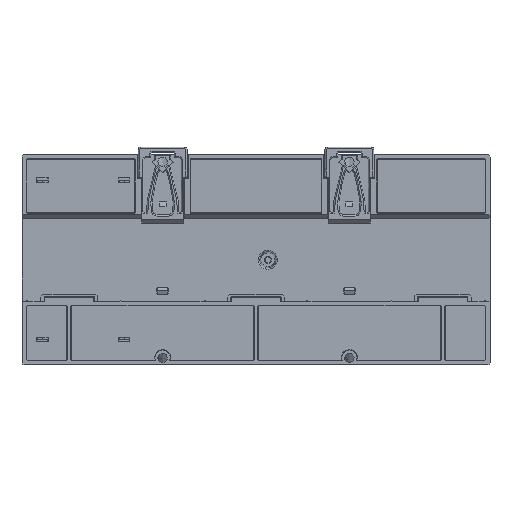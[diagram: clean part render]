
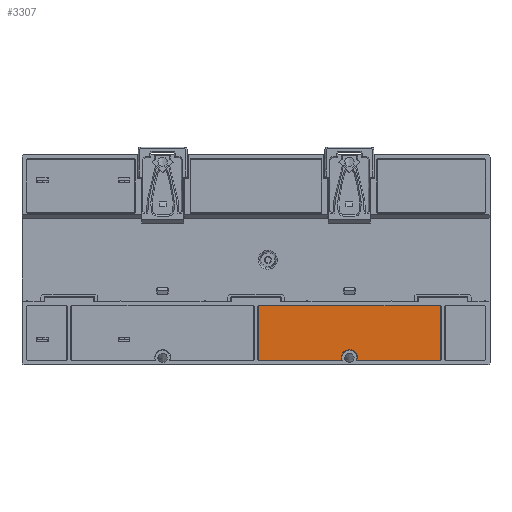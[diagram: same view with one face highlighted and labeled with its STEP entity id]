
A CAD part, front view. The second image highlights one B-rep face of the part: STEP entity #3307.
In plain terms, the highlighted planar face has unit normal (0, -1, 0).
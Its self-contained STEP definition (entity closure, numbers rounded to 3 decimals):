
#3307=ADVANCED_FACE('',(#7515),#76034,.T.);
#7515=FACE_OUTER_BOUND('',#12336,.T.);
#12336=EDGE_LOOP('',(#30016,#30017,#30018,#30019,#30020,#30021,#30022,#30023,
#30024,#30025));
#30016=ORIENTED_EDGE('',*,*,#47261,.T.);
#30017=ORIENTED_EDGE('',*,*,#47269,.T.);
#30018=ORIENTED_EDGE('',*,*,#47268,.T.);
#30019=ORIENTED_EDGE('',*,*,#47267,.T.);
#30020=ORIENTED_EDGE('',*,*,#47266,.T.);
#30021=ORIENTED_EDGE('',*,*,#47265,.T.);
#30022=ORIENTED_EDGE('',*,*,#47512,.T.);
#30023=ORIENTED_EDGE('',*,*,#47264,.T.);
#30024=ORIENTED_EDGE('',*,*,#47263,.T.);
#30025=ORIENTED_EDGE('',*,*,#47262,.T.);
#47261=EDGE_CURVE('',#69839,#69840,#60865,.T.);
#47262=EDGE_CURVE('',#69841,#69839,#60866,.T.);
#47263=EDGE_CURVE('',#69842,#69841,#60867,.T.);
#47264=EDGE_CURVE('',#69843,#69842,#60868,.T.);
#47265=EDGE_CURVE('',#69845,#69844,#60869,.T.);
#47266=EDGE_CURVE('',#69846,#69845,#60870,.T.);
#47267=EDGE_CURVE('',#69847,#69846,#60871,.T.);
#47268=EDGE_CURVE('',#69848,#69847,#60872,.T.);
#47269=EDGE_CURVE('',#69840,#69848,#60873,.T.);
#47512=EDGE_CURVE('',#69844,#69843,#52511,.T.);
#52511=(
BOUNDED_CURVE()
B_SPLINE_CURVE(2,(#162219,#162220,#162221,#162222,#162223,#162224,#162225,
#162226,#162227),.UNSPECIFIED.,.F.,.F.)
B_SPLINE_CURVE_WITH_KNOTS((3,2,2,2,3),(0.,3.256,6.512,
9.768,13.024),.UNSPECIFIED.)
CURVE()
GEOMETRIC_REPRESENTATION_ITEM()
RATIONAL_B_SPLINE_CURVE((1.,0.894,1.,0.894,1.,0.894,
1.,0.894,1.))
REPRESENTATION_ITEM('')
);
#60865=B_SPLINE_CURVE_WITH_KNOTS('',3,(#161496,#161497,#161498,#161499,
#161500),.UNSPECIFIED.,.F.,.F.,(4,1,4),(-0.327,-0.164,
0.),.UNSPECIFIED.);
#60866=B_SPLINE_CURVE_WITH_KNOTS('',1,(#161501,#161502),.UNSPECIFIED.,.F.,
 .F.,(2,2),(-22.85,0.),.UNSPECIFIED.);
#60867=B_SPLINE_CURVE_WITH_KNOTS('',3,(#161503,#161504,#161505,#161506,
#161507),.UNSPECIFIED.,.F.,.F.,(4,1,4),(-0.327,-0.164,
0.),.UNSPECIFIED.);
#60868=B_SPLINE_CURVE_WITH_KNOTS('',1,(#161508,#161509),.UNSPECIFIED.,.F.,
 .F.,(2,2),(-35.446,0.),.UNSPECIFIED.);
#60869=B_SPLINE_CURVE_WITH_KNOTS('',1,(#161510,#161511),.UNSPECIFIED.,.F.,
 .F.,(2,2),(-35.446,0.),.UNSPECIFIED.);
#60870=B_SPLINE_CURVE_WITH_KNOTS('',3,(#161512,#161513,#161514,#161515,
#161516),.UNSPECIFIED.,.F.,.F.,(4,1,4),(-0.327,-0.164,
0.),.UNSPECIFIED.);
#60871=B_SPLINE_CURVE_WITH_KNOTS('',1,(#161517,#161518),.UNSPECIFIED.,.F.,
 .F.,(2,2),(-22.85,0.),.UNSPECIFIED.);
#60872=B_SPLINE_CURVE_WITH_KNOTS('',3,(#161519,#161520,#161521,#161522,
#161523),.UNSPECIFIED.,.F.,.F.,(4,1,4),(-0.327,-0.164,
0.),.UNSPECIFIED.);
#60873=B_SPLINE_CURVE_WITH_KNOTS('',1,(#161524,#161525),.UNSPECIFIED.,.F.,
 .F.,(2,2),(-77.6,0.),.UNSPECIFIED.);
#69839=VERTEX_POINT('',#158295);
#69840=VERTEX_POINT('',#158296);
#69841=VERTEX_POINT('',#158297);
#69842=VERTEX_POINT('',#158298);
#69843=VERTEX_POINT('',#158299);
#69844=VERTEX_POINT('',#158300);
#69845=VERTEX_POINT('',#158301);
#69846=VERTEX_POINT('',#158302);
#69847=VERTEX_POINT('',#158303);
#69848=VERTEX_POINT('',#158304);
#76034=PLANE('',#79002);
#79002=AXIS2_PLACEMENT_3D('',#116442,#81849,$);
#81849=DIRECTION('',(0.,-1.,0.));
#116442=CARTESIAN_POINT('',(87.072,3.,-17.153));
#158295=CARTESIAN_POINT('',(79.,3.,-19.95));
#158296=CARTESIAN_POINT('',(78.8,3.,-19.75));
#158297=CARTESIAN_POINT('',(79.,3.,-42.8));
#158298=CARTESIAN_POINT('',(78.8,3.,-43.));
#158299=CARTESIAN_POINT('',(43.354,3.,-43.));
#158300=CARTESIAN_POINT('',(36.646,3.,-43.));
#158301=CARTESIAN_POINT('',(1.2,3.,-43.));
#158302=CARTESIAN_POINT('',(1.,3.,-42.8));
#158303=CARTESIAN_POINT('',(1.,3.,-19.95));
#158304=CARTESIAN_POINT('',(1.2,3.,-19.75));
#161496=CARTESIAN_POINT('',(79.,3.,-19.95));
#161497=CARTESIAN_POINT('',(79.,3.,-19.883));
#161498=CARTESIAN_POINT('',(78.95,3.,-19.8));
#161499=CARTESIAN_POINT('',(78.867,3.,-19.75));
#161500=CARTESIAN_POINT('',(78.8,3.,-19.75));
#161501=CARTESIAN_POINT('',(79.,3.,-42.8));
#161502=CARTESIAN_POINT('',(79.,3.,-19.95));
#161503=CARTESIAN_POINT('',(78.8,3.,-43.));
#161504=CARTESIAN_POINT('',(78.867,3.,-43.));
#161505=CARTESIAN_POINT('',(78.95,3.,-42.95));
#161506=CARTESIAN_POINT('',(79.,3.,-42.867));
#161507=CARTESIAN_POINT('',(79.,3.,-42.8));
#161508=CARTESIAN_POINT('',(43.354,3.,-43.));
#161509=CARTESIAN_POINT('',(78.8,3.,-43.));
#161510=CARTESIAN_POINT('',(1.2,3.,-43.));
#161511=CARTESIAN_POINT('',(36.646,3.,-43.));
#161512=CARTESIAN_POINT('',(1.,3.,-42.8));
#161513=CARTESIAN_POINT('',(1.,3.,-42.867));
#161514=CARTESIAN_POINT('',(1.05,3.,-42.95));
#161515=CARTESIAN_POINT('',(1.133,3.,-43.));
#161516=CARTESIAN_POINT('',(1.2,3.,-43.));
#161517=CARTESIAN_POINT('',(1.,3.,-19.95));
#161518=CARTESIAN_POINT('',(1.,3.,-42.8));
#161519=CARTESIAN_POINT('',(1.2,3.,-19.75));
#161520=CARTESIAN_POINT('',(1.133,3.,-19.75));
#161521=CARTESIAN_POINT('',(1.05,3.,-19.8));
#161522=CARTESIAN_POINT('',(1.,3.,-19.883));
#161523=CARTESIAN_POINT('',(1.,3.,-19.95));
#161524=CARTESIAN_POINT('',(78.8,3.,-19.75));
#161525=CARTESIAN_POINT('',(1.2,3.,-19.75));
#162219=CARTESIAN_POINT('',(36.646,3.,-43.));
#162220=CARTESIAN_POINT('',(36.144,3.,-41.317));
#162221=CARTESIAN_POINT('',(37.194,3.,-39.908));
#162222=CARTESIAN_POINT('',(38.243,3.,-38.5));
#162223=CARTESIAN_POINT('',(40.,3.,-38.5));
#162224=CARTESIAN_POINT('',(41.757,3.,-38.5));
#162225=CARTESIAN_POINT('',(42.806,3.,-39.908));
#162226=CARTESIAN_POINT('',(43.856,3.,-41.317));
#162227=CARTESIAN_POINT('',(43.354,3.,-43.));
